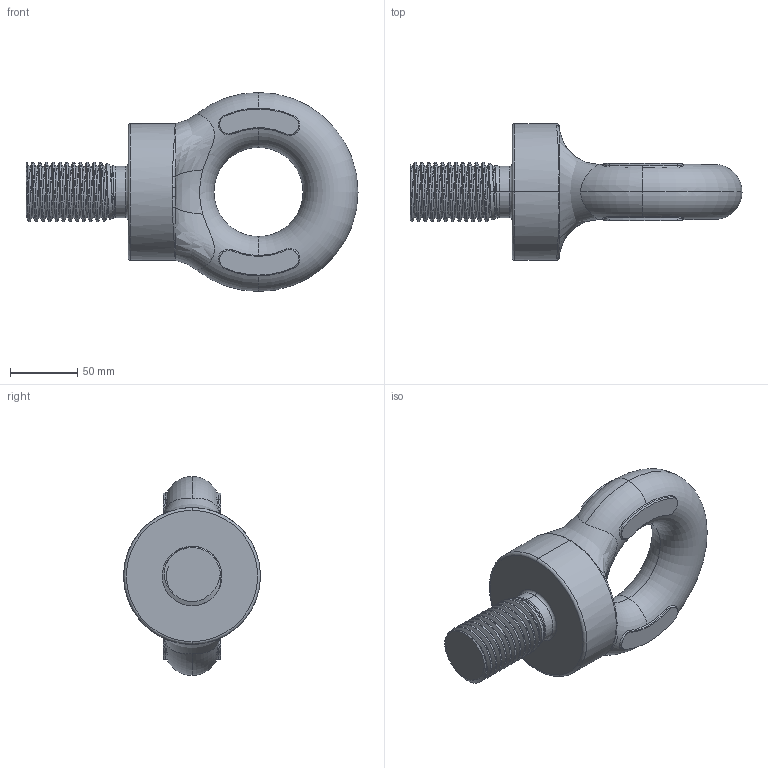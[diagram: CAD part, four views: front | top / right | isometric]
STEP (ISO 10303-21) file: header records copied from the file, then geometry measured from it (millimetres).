
FILE_DESCRIPTION (( 'STEP AP203' ), '1' );
FILE_NAME ('EBU1750.STEP', '2014-03-07T03:07:42', ( '' ), ( '' ), 'SwSTEP 2.0', 'SolidWorks 2012', '' );
FILE_SCHEMA (( 'CONFIG_CONTROL_DESIGN' ));
Length unit declared in the file: millimetre
Products named in the file (1): EBU1750
Bounding box: 247.7 x 102 x 148.5 mm (x, y, z)
Volume: 857171.6 mm3; surface area: 79514.6 mm2
Topology: 1 solids, 1 shells, 282 faces, 738 edges, 469 vertices
Faces by surface type: plane 107, bspline 88, cylinder 59, torus 22, cone 6
Entity records: 19387 total; most frequent: CARTESIAN_POINT 13137, ORIENTED_EDGE 1460, DIRECTION 1004, EDGE_CURVE 730, VERTEX_POINT 469, VECTOR 354, LINE 354, AXIS2_PLACEMENT_3D 325
